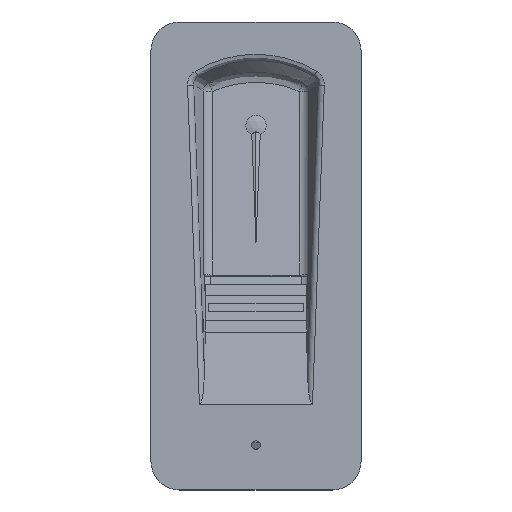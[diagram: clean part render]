
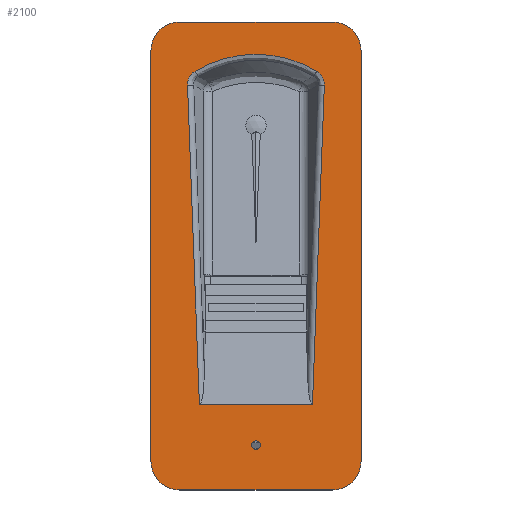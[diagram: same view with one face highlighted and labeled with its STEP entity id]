
A CAD part, top view. The second image highlights one B-rep face of the part: STEP entity #2100.
In plain terms, the highlighted planar face has unit normal (0, 0, 1).
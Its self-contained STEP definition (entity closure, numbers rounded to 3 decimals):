
#2100 = ADVANCED_FACE( '', ( #4560, #4561, #4562 ), #4563, .T. );
#4560 = FACE_BOUND( '', #7589, .T. );
#4561 = FACE_OUTER_BOUND( '', #7590, .T. );
#4562 = FACE_BOUND( '', #7591, .T. );
#4563 = PLANE( '', #7592 );
#7589 = EDGE_LOOP( '', ( #13957, #13958, #13959, #13960, #13961, #13962 ) );
#7590 = EDGE_LOOP( '', ( #13963, #13964, #13965, #13966, #13967, #13968, #13969, #13970 ) );
#7591 = EDGE_LOOP( '', ( #13971 ) );
#7592 = AXIS2_PLACEMENT_3D( '', #13972, #13973, #13974 );
#13957 = ORIENTED_EDGE( '', *, *, #18252, .T. );
#13958 = ORIENTED_EDGE( '', *, *, #19212, .T. );
#13959 = ORIENTED_EDGE( '', *, *, #19264, .T. );
#13960 = ORIENTED_EDGE( '', *, *, #18807, .T. );
#13961 = ORIENTED_EDGE( '', *, *, #18076, .T. );
#13962 = ORIENTED_EDGE( '', *, *, #19508, .T. );
#13963 = ORIENTED_EDGE( '', *, *, #18331, .T. );
#13964 = ORIENTED_EDGE( '', *, *, #18091, .T. );
#13965 = ORIENTED_EDGE( '', *, *, #18473, .T. );
#13966 = ORIENTED_EDGE( '', *, *, #18229, .T. );
#13967 = ORIENTED_EDGE( '', *, *, #19509, .T. );
#13968 = ORIENTED_EDGE( '', *, *, #19334, .T. );
#13969 = ORIENTED_EDGE( '', *, *, #19457, .T. );
#13970 = ORIENTED_EDGE( '', *, *, #19081, .T. );
#13971 = ORIENTED_EDGE( '', *, *, #18135, .F. );
#13972 = CARTESIAN_POINT( '', ( -11.15, -34.869, 1.755 ) );
#13973 = DIRECTION( '', ( 0., 0., 1. ) );
#13974 = DIRECTION( '', ( -1., 0., 0. ) );
#18076 = EDGE_CURVE( '', #22172, #22177, #22179, .T. );
#18091 = EDGE_CURVE( '', #22199, #22197, #22200, .T. );
#18135 = EDGE_CURVE( '', #22264, #22264, #22265, .T. );
#18229 = EDGE_CURVE( '', #22415, #22413, #22416, .T. );
#18252 = EDGE_CURVE( '', #22450, #22448, #22451, .T. );
#18331 = EDGE_CURVE( '', #22575, #22199, #22576, .T. );
#18473 = EDGE_CURVE( '', #22197, #22415, #22790, .T. );
#18807 = EDGE_CURVE( '', #23282, #22172, #23284, .T. );
#19081 = EDGE_CURVE( '', #23658, #22575, #23659, .T. );
#19212 = EDGE_CURVE( '', #22448, #23828, #23830, .T. );
#19264 = EDGE_CURVE( '', #23828, #23282, #23897, .T. );
#19334 = EDGE_CURVE( '', #23986, #23987, #23988, .T. );
#19457 = EDGE_CURVE( '', #23987, #23658, #24137, .T. );
#19508 = EDGE_CURVE( '', #22177, #22450, #24196, .T. );
#19509 = EDGE_CURVE( '', #22413, #23986, #24197, .T. );
#22172 = VERTEX_POINT( '', #29995 );
#22177 = VERTEX_POINT( '', #30011 );
#22179 = B_SPLINE_CURVE_WITH_KNOTS( '', 3, ( #30013, #30014, #30015, #30016, #30017, #30018, #30019, #30020, #30021, #30022 ), .UNSPECIFIED., .F., .F., ( 4, 2, 2, 2, 4 ), ( 0., 0.064, 0.37, 0.685, 1. ), .UNSPECIFIED. );
#22197 = VERTEX_POINT( '', #30047 );
#22199 = VERTEX_POINT( '', #30050 );
#22200 = CIRCLE( '', #30051, 3. );
#22264 = VERTEX_POINT( '', #30283 );
#22265 = CIRCLE( '', #30284, 0.45 );
#22413 = VERTEX_POINT( '', #30775 );
#22415 = VERTEX_POINT( '', #30778 );
#22416 = CIRCLE( '', #30779, 3. );
#22448 = VERTEX_POINT( '', #30896 );
#22450 = VERTEX_POINT( '', #30898 );
#22451 = LINE( '', #30899, #30900 );
#22575 = VERTEX_POINT( '', #31266 );
#22576 = LINE( '', #31267, #31268 );
#22790 = LINE( '', #32264, #32265 );
#23282 = VERTEX_POINT( '', #33493 );
#23284 = ELLIPSE( '', #33495, 15.472, 13.7 );
#23658 = VERTEX_POINT( '', #34584 );
#23659 = CIRCLE( '', #34585, 3. );
#23828 = VERTEX_POINT( '', #35109 );
#23830 = LINE( '', #35111, #35112 );
#23897 = B_SPLINE_CURVE_WITH_KNOTS( '', 3, ( #35434, #35435, #35436, #35437, #35438, #35439, #35440, #35441, #35442, #35443 ), .UNSPECIFIED., .F., .F., ( 4, 2, 2, 2, 4 ), ( 0., 0.065, 0.371, 0.686, 1. ), .UNSPECIFIED. );
#23986 = VERTEX_POINT( '', #35862 );
#23987 = VERTEX_POINT( '', #35863 );
#23988 = CIRCLE( '', #35864, 3. );
#24137 = LINE( '', #36446, #36447 );
#24196 = LINE( '', #36702, #36703 );
#24197 = LINE( '', #36704, #36705 );
#29995 = CARTESIAN_POINT( '', ( 6.197, 14.99, 1.755 ) );
#30011 = CARTESIAN_POINT( '', ( 7.002, 13.514, 1.755 ) );
#30013 = CARTESIAN_POINT( '', ( 6.197, 14.99, 1.755 ) );
#30014 = CARTESIAN_POINT( '', ( 6.229, 14.971, 1.755 ) );
#30015 = CARTESIAN_POINT( '', ( 6.261, 14.95, 1.755 ) );
#30016 = CARTESIAN_POINT( '', ( 6.441, 14.828, 1.755 ) );
#30017 = CARTESIAN_POINT( '', ( 6.574, 14.701, 1.755 ) );
#30018 = CARTESIAN_POINT( '', ( 6.792, 14.41, 1.755 ) );
#30019 = CARTESIAN_POINT( '', ( 6.878, 14.24, 1.755 ) );
#30020 = CARTESIAN_POINT( '', ( 6.985, 13.887, 1.755 ) );
#30021 = CARTESIAN_POINT( '', ( 7.009, 13.698, 1.755 ) );
#30022 = CARTESIAN_POINT( '', ( 7.002, 13.514, 1.755 ) );
#30047 = CARTESIAN_POINT( '', ( -8.15, -28.869, 1.755 ) );
#30050 = CARTESIAN_POINT( '', ( -11.15, -25.869, 1.755 ) );
#30051 = AXIS2_PLACEMENT_3D( '', #40075, #40076, #40077 );
#30283 = CARTESIAN_POINT( '', ( 0.3, -24.169, 1.755 ) );
#30284 = AXIS2_PLACEMENT_3D( '', #40125, #40126, #40127 );
#30775 = CARTESIAN_POINT( '', ( 10.85, -25.869, 1.755 ) );
#30778 = CARTESIAN_POINT( '', ( 7.85, -28.869, 1.755 ) );
#30779 = AXIS2_PLACEMENT_3D( '', #40250, #40251, #40252 );
#30896 = CARTESIAN_POINT( '', ( -6.079, -19.896, 1.755 ) );
#30898 = CARTESIAN_POINT( '', ( 5.76, -19.896, 1.755 ) );
#30899 = CARTESIAN_POINT( '', ( 5.1, -19.896, 1.755 ) );
#30900 = VECTOR( '', #40276, 1000. );
#31266 = CARTESIAN_POINT( '', ( -11.15, 17.131, 1.755 ) );
#31267 = CARTESIAN_POINT( '', ( -11.15, 20.131, 1.755 ) );
#31268 = VECTOR( '', #40370, 1000. );
#32264 = CARTESIAN_POINT( '', ( -11.15, -28.869, 1.755 ) );
#32265 = VECTOR( '', #40513, 1000. );
#33493 = CARTESIAN_POINT( '', ( -6.518, 14.978, 1.755 ) );
#33495 = AXIS2_PLACEMENT_3D( '', #40975, #40976, #40977 );
#34584 = CARTESIAN_POINT( '', ( -8.15, 20.131, 1.755 ) );
#34585 = AXIS2_PLACEMENT_3D( '', #41246, #41247, #41248 );
#35109 = CARTESIAN_POINT( '', ( -7.32, 13.503, 1.755 ) );
#35111 = CARTESIAN_POINT( '', ( -5.53, -34.66, 1.755 ) );
#35112 = VECTOR( '', #41368, 1000. );
#35434 = CARTESIAN_POINT( '', ( -7.32, 13.503, 1.755 ) );
#35435 = CARTESIAN_POINT( '', ( -7.322, 13.542, 1.755 ) );
#35436 = CARTESIAN_POINT( '', ( -7.322, 13.58, 1.755 ) );
#35437 = CARTESIAN_POINT( '', ( -7.316, 13.798, 1.755 ) );
#35438 = CARTESIAN_POINT( '', ( -7.281, 13.978, 1.755 ) );
#35439 = CARTESIAN_POINT( '', ( -7.154, 14.319, 1.755 ) );
#35440 = CARTESIAN_POINT( '', ( -7.059, 14.482, 1.755 ) );
#35441 = CARTESIAN_POINT( '', ( -6.821, 14.763, 1.755 ) );
#35442 = CARTESIAN_POINT( '', ( -6.676, 14.884, 1.755 ) );
#35443 = CARTESIAN_POINT( '', ( -6.518, 14.978, 1.755 ) );
#35862 = CARTESIAN_POINT( '', ( 10.85, 17.131, 1.755 ) );
#35863 = CARTESIAN_POINT( '', ( 7.85, 20.131, 1.755 ) );
#35864 = AXIS2_PLACEMENT_3D( '', #41481, #41482, #41483 );
#36446 = CARTESIAN_POINT( '', ( 10.85, 20.131, 1.755 ) );
#36447 = VECTOR( '', #41605, 1000. );
#36702 = CARTESIAN_POINT( '', ( 5.759, -19.913, 1.755 ) );
#36703 = VECTOR( '', #41640, 1000. );
#36704 = CARTESIAN_POINT( '', ( 10.85, -34.869, 1.755 ) );
#36705 = VECTOR( '', #41641, 1000. );
#40075 = CARTESIAN_POINT( '', ( -8.15, -25.869, 1.755 ) );
#40076 = DIRECTION( '', ( 0., 0., 1. ) );
#40077 = DIRECTION( '', ( 1., 0., 0. ) );
#40125 = CARTESIAN_POINT( '', ( -0.15, -24.169, 1.755 ) );
#40126 = DIRECTION( '', ( 0., 0., 1. ) );
#40127 = DIRECTION( '', ( 1., 0., 0. ) );
#40250 = CARTESIAN_POINT( '', ( 7.85, -25.869, 1.755 ) );
#40251 = DIRECTION( '', ( 0., 0., 1. ) );
#40252 = DIRECTION( '', ( 1., 0., 0. ) );
#40276 = DIRECTION( '', ( -1., 0., 0. ) );
#40370 = DIRECTION( '', ( 0., -1., 0. ) );
#40513 = DIRECTION( '', ( 1., 0., 0. ) );
#40975 = CARTESIAN_POINT( '', ( -0.15, 1.278, 1.755 ) );
#40976 = DIRECTION( '', ( 0., 0., -1. ) );
#40977 = DIRECTION( '', ( 0., 1., 0. ) );
#41246 = CARTESIAN_POINT( '', ( -8.15, 17.131, 1.755 ) );
#41247 = DIRECTION( '', ( 0., 0., 1. ) );
#41248 = DIRECTION( '', ( 1., 0., 0. ) );
#41368 = DIRECTION( '', ( -0.037, 0.999, 0. ) );
#41481 = CARTESIAN_POINT( '', ( 7.85, 17.131, 1.755 ) );
#41482 = DIRECTION( '', ( 0., 0., 1. ) );
#41483 = DIRECTION( '', ( 1., 0., 0. ) );
#41605 = DIRECTION( '', ( -1., 0., 0. ) );
#41640 = DIRECTION( '', ( -0.037, -0.999, 0. ) );
#41641 = DIRECTION( '', ( 0., 1., 0. ) );
